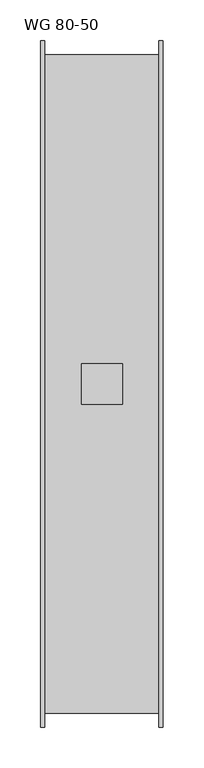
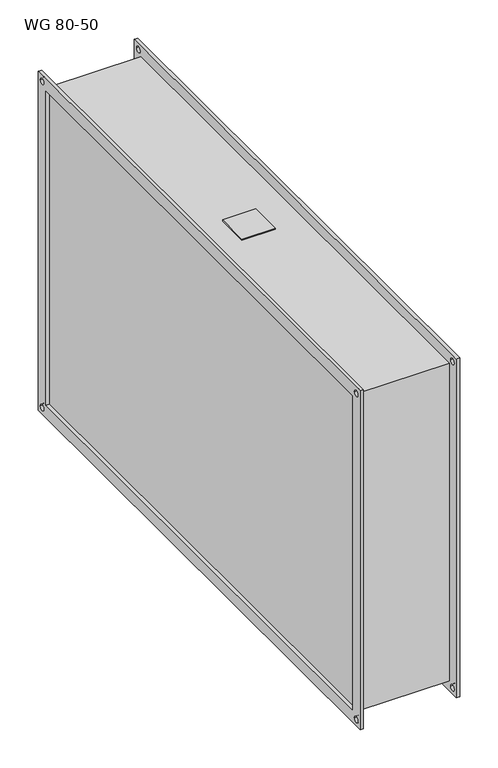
"""IFC4 building model written with IfcOpenShell, lengths in millimetres: damper geometry, KORF_Вставка_Гибкая_WG : WG 80-50."""

from ifc_helpers import new_model, si_unit, point, frame, frame_2d, origin, place, context, project, spatial, polyline, circle_curve, trimmed, segment, composite_curve, outline, extrude, source, transform, mapped, element, save


def wg_80_50_3d6b2e59(model_context):
    return source(origin(), model_context, "Body", "SweptSolid", [
        extrude(outline(polyline([(50.0, -25.0), (50.0, 25.0), (100.0, 25.0), (100.0, -25.0), (50.0, -25.0)])), frame((0.0, 0.0, 253.0), z_axis=(0.0, 0.0, 1.0), x_axis=(1.0, 0.0, 0.0)), (0.0, 0.0, 1.0), 2.0),
        extrude(outline(polyline([(-420.0, 270.0), (420.0, 270.0), (420.0, -270.0), (-420.0, -270.0), (-420.0, 270.0)]), holes=[polyline([(-400.0, 250.0), (-400.0, -250.0), (400.0, -250.0), (400.0, 250.0), (-400.0, 250.0)]), composite_curve([segment(trimmed(circle_curve(frame_2d((410.0, 260.0)), 4.5), [point((405.5, 260.0))], [point((414.5, 260.0))], True, "CARTESIAN"), True, "CONTINUOUS"), segment(trimmed(circle_curve(frame_2d((410.0, 260.0)), 4.5), [point((414.5, 260.0))], [point((405.5, 260.0))], True, "CARTESIAN"), True, "CONTINUOUS")], self_intersect=False), composite_curve([segment(trimmed(circle_curve(frame_2d((-410.0, 260.0)), 4.5), [point((-414.5, 260.0))], [point((-405.5, 260.0))], True, "CARTESIAN"), True, "CONTINUOUS"), segment(trimmed(circle_curve(frame_2d((-410.0, 260.0)), 4.5), [point((-405.5, 260.0))], [point((-414.5, 260.0))], True, "CARTESIAN"), True, "CONTINUOUS")], self_intersect=False), composite_curve([segment(trimmed(circle_curve(frame_2d((-410.0, -260.0)), 4.5), [point((-414.5, -260.0))], [point((-405.5, -260.0))], True, "CARTESIAN"), True, "CONTINUOUS"), segment(trimmed(circle_curve(frame_2d((-410.0, -260.0)), 4.5), [point((-405.5, -260.0))], [point((-414.5, -260.0))], True, "CARTESIAN"), True, "CONTINUOUS")], self_intersect=False), composite_curve([segment(trimmed(circle_curve(frame_2d((410.0, -260.0)), 4.5), [point((405.5, -260.0))], [point((414.5, -260.0))], True, "CARTESIAN"), True, "CONTINUOUS"), segment(trimmed(circle_curve(frame_2d((410.0, -260.0)), 4.5), [point((414.5, -260.0))], [point((405.5, -260.0))], True, "CARTESIAN"), True, "CONTINUOUS")], self_intersect=False)]), frame((145.0, 0.0, 0.0), z_axis=(1.0, 0.0, 0.0), x_axis=(0.0, 1.0, 0.0)), (0.0, 0.0, 1.0), 5.0),
        extrude(outline(polyline([(-420.0, 270.0), (420.0, 270.0), (420.0, -270.0), (-420.0, -270.0), (-420.0, 270.0)]), holes=[polyline([(-400.0, 250.0), (-400.0, -250.0), (400.0, -250.0), (400.0, 250.0), (-400.0, 250.0)]), composite_curve([segment(trimmed(circle_curve(frame_2d((410.0, 260.0)), 4.5), [point((405.5, 260.0))], [point((414.5, 260.0))], True, "CARTESIAN"), True, "CONTINUOUS"), segment(trimmed(circle_curve(frame_2d((410.0, 260.0)), 4.5), [point((414.5, 260.0))], [point((405.5, 260.0))], True, "CARTESIAN"), True, "CONTINUOUS")], self_intersect=False), composite_curve([segment(trimmed(circle_curve(frame_2d((-410.0, 260.0)), 4.5), [point((-414.5, 260.0))], [point((-405.5, 260.0))], True, "CARTESIAN"), True, "CONTINUOUS"), segment(trimmed(circle_curve(frame_2d((-410.0, 260.0)), 4.5), [point((-405.5, 260.0))], [point((-414.5, 260.0))], True, "CARTESIAN"), True, "CONTINUOUS")], self_intersect=False), composite_curve([segment(trimmed(circle_curve(frame_2d((-410.0, -260.0)), 4.5), [point((-414.5, -260.0))], [point((-405.5, -260.0))], True, "CARTESIAN"), True, "CONTINUOUS"), segment(trimmed(circle_curve(frame_2d((-410.0, -260.0)), 4.5), [point((-405.5, -260.0))], [point((-414.5, -260.0))], True, "CARTESIAN"), True, "CONTINUOUS")], self_intersect=False), composite_curve([segment(trimmed(circle_curve(frame_2d((410.0, -260.0)), 4.5), [point((405.5, -260.0))], [point((414.5, -260.0))], True, "CARTESIAN"), True, "CONTINUOUS"), segment(trimmed(circle_curve(frame_2d((410.0, -260.0)), 4.5), [point((414.5, -260.0))], [point((405.5, -260.0))], True, "CARTESIAN"), True, "CONTINUOUS")], self_intersect=False)]), frame((0.0, 0.0, 0.0), z_axis=(1.0, 0.0, 0.0), x_axis=(0.0, 1.0, 0.0)), (0.0, 0.0, 1.0), 5.0),
        extrude(outline(polyline([(145.0, 403.0), (145.0, -403.0), (5.0, -403.0), (5.0, 403.0), (145.0, 403.0)])), frame((0.0, 0.0, -253.0), z_axis=(0.0, 0.0, 1.0), x_axis=(1.0, 0.0, 0.0)), (0.0, 0.0, 1.0), 506.0),
    ])


if __name__ == "__main__":
    model = new_model("IFC4")
    model_context = context("Model", 3, world=origin())
    ifc_project = project(units=[si_unit("LENGTHUNIT", "METRE", prefix="MILLI")], contexts=[model_context])
    site = spatial("IfcSite", under=ifc_project)
    building = spatial("IfcBuilding", under=site)
    placement = place(None, origin())
    wg_80_50_shape = wg_80_50_3d6b2e59(model_context)
    element("IfcDamper", 1, ObjectType="KORF_Вставка_Гибкая_WG : WG 80-50", at=placement, inside=building, context=model_context, shape_type="MappedRepresentation", body=[
        mapped(wg_80_50_shape, transform((0.0, 0.0, 0.0), x_axis=(1.0, 0.0, 0.0), y_axis=(0.0, 1.0, 0.0), z_axis=(0.0, 0.0, 1.0))),
    ])
    save(model, "model.ifc")
